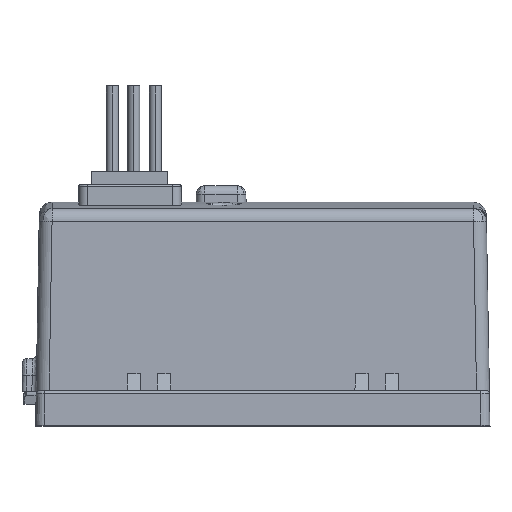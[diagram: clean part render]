
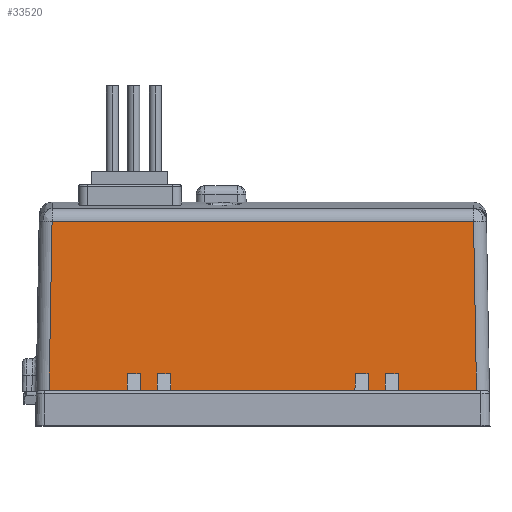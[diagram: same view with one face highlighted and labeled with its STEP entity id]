
A CAD part, top view. The second image highlights one B-rep face of the part: STEP entity #33520.
In plain terms, the highlighted planar face has unit normal (0, 0.018, 1) as drawn and (-1, 0.017, 0) by its records, which use the part's own axes.
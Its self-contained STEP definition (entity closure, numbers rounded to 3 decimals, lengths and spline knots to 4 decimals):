
#6800 = VERTEX_POINT ( 'NONE', #40657 ) ;
#31829 = DIRECTION ( 'NONE',  ( 0., 0., -1. ) ) ;
#31830 = VECTOR ( 'NONE', #31829, 39.3701 ) ;
#31831 = CARTESIAN_POINT ( 'NONE',  ( -0.5413, 0., -1.0374 ) ) ;
#31832 = LINE ( 'NONE', #31831, #31830 ) ;
#31833 = CARTESIAN_POINT ( 'NONE',  ( -0.5413, 0., -0.9784 ) ) ;
#31834 = DIRECTION ( 'NONE',  ( 0.017, 1., 0.017 ) ) ;
#31835 = VECTOR ( 'NONE', #31834, 39.3701 ) ;
#31836 = CARTESIAN_POINT ( 'NONE',  ( -0.5414, -0.0052, -0.9784 ) ) ;
#31837 = LINE ( 'NONE', #31836, #31835 ) ;
#31838 = CARTESIAN_POINT ( 'NONE',  ( -0.5278, 0.7782, -0.9648 ) ) ;
#31885 = DIRECTION ( 'NONE',  ( 0., 0., 1. ) ) ;
#31886 = VECTOR ( 'NONE', #31885, 39.3701 ) ;
#31887 = CARTESIAN_POINT ( 'NONE',  ( -0.5278, 0.7782, -0.9838 ) ) ;
#31888 = LINE ( 'NONE', #31887, #31886 ) ;
#31889 = CARTESIAN_POINT ( 'NONE',  ( -0.5413, 0., 0.9784 ) ) ;
#31890 = DIRECTION ( 'NONE',  ( -0.017, -1., 0.017 ) ) ;
#31891 = VECTOR ( 'NONE', #31890, 39.3701 ) ;
#31892 = CARTESIAN_POINT ( 'NONE',  ( -0.5261, 0.8709, 0.9632 ) ) ;
#31893 = LINE ( 'NONE', #31892, #31891 ) ;
#31894 = DIRECTION ( 'NONE',  ( -0.017, -1., 0. ) ) ;
#31895 = DIRECTION ( 'NONE',  ( -1., 0.017, 0. ) ) ;
#31896 = CARTESIAN_POINT ( 'NONE',  ( -0.5413, 0., -1.0673 ) ) ;
#31897 = AXIS2_PLACEMENT_3D ( 'NONE', #31896, #31895, #31894 ) ;
#31898 = PLANE ( 'NONE',  #31897 ) ;
#31899 = FACE_OUTER_BOUND ( 'NONE', #33579, .T. ) ;
#33493 = VERTEX_POINT ( 'NONE', #31838 ) ;
#33494 = ORIENTED_EDGE ( 'NONE', *, *, #33495, .F. ) ;
#33495 = EDGE_CURVE ( 'NONE', #33496, #33493, #31837, .T. ) ;
#33496 = VERTEX_POINT ( 'NONE', #31833 ) ;
#33497 = ORIENTED_EDGE ( 'NONE', *, *, #33499, .F. ) ;
#33499 = EDGE_CURVE ( 'NONE', #33525, #33496, #31832, .T. ) ;
#33520 = ADVANCED_FACE ( 'NONE', ( #31899 ), #31898, .T. ) ;
#33521 = ORIENTED_EDGE ( 'NONE', *, *, #33524, .F. ) ;
#33524 = EDGE_CURVE ( 'NONE', #6800, #33525, #31893, .T. ) ;
#33525 = VERTEX_POINT ( 'NONE', #31889 ) ;
#33526 = ORIENTED_EDGE ( 'NONE', *, *, #33527, .F. ) ;
#33527 = EDGE_CURVE ( 'NONE', #33493, #6800, #31888, .T. ) ;
#33579 = EDGE_LOOP ( 'NONE', ( #33521, #33526, #33494, #33497 ) ) ;
#40657 = CARTESIAN_POINT ( 'NONE',  ( -0.5278, 0.7782, 0.9648 ) ) ;
